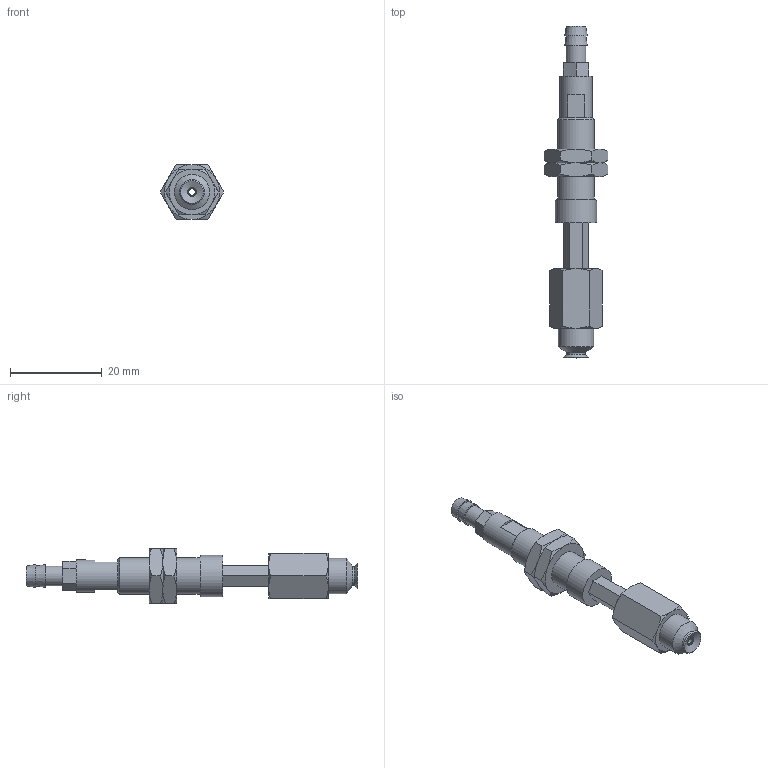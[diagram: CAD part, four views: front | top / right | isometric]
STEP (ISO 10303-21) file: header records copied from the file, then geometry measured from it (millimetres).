
FILE_DESCRIPTION(('STEP AP203'),'1');
FILE_NAME('-T.stp','2025-08-27T02:49:21',(' '),(' '),'Spatial InterOp 3D',' ',' ');
FILE_SCHEMA(('CONFIG_CONTROL_DESIGN'));
Length unit declared in the file: millimetre
Products named in the file (7): BNABPFTH-5A-10-※-T; ADAPTER; NAPATH-10A-10--M; Nut-5A-10-h; NAPFTH-5A-10-FBODY; BPFG-5A-※; T
Assembly tree (7 placements, depth 2):
  BNABPFTH-5A-10-※-T
    ADAPTER
    NAPATH-10A-10--M
    Nut-5A-10-h  x2
    NAPFTH-5A-10-FBODY
    BPFG-5A-※
    T
Bounding box: 13.86 x 72.5 x 12 mm (x, y, z)
Volume: 3545.4 mm3; surface area: 4370.5 mm2
Topology: 7 solids, 7 shells, 140 faces, 299 edges, 183 vertices
Faces by surface type: plane 64, cone 49, cylinder 17, torus 9, bspline 1
Full cylindrical faces by diameter (mm): 1.4 x1, 2 x2, 3 x1, 4 x2, 4.134 x1, 4.3 x1, 5 x1, 6 x2, 7 x1, 7.188 x2, 7.7 x1, 8 x1, 9 x1
Entity records: 3465 total; most frequent: CARTESIAN_POINT 792, DIRECTION 486, ORIENTED_EDGE 410, AXIS2_PLACEMENT_3D 205, EDGE_CURVE 205, EDGE_LOOP 176, VERTEX_POINT 147, FACE_OUTER_BOUND 143
